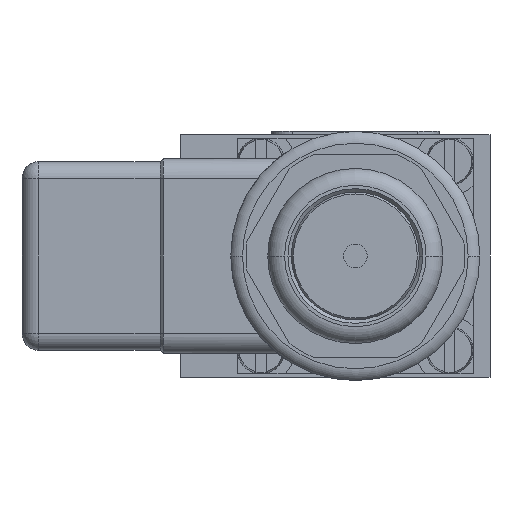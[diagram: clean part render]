
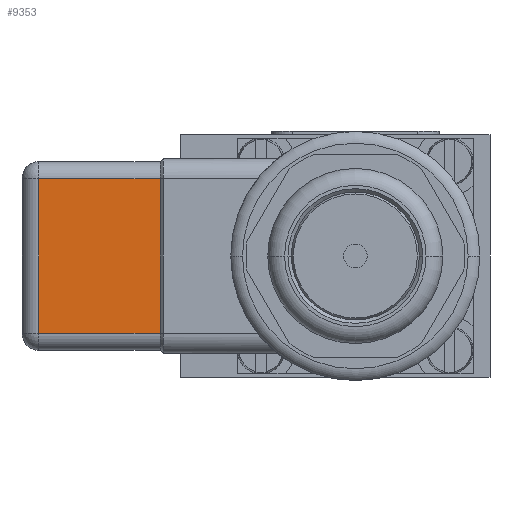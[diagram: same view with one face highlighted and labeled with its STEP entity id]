
A CAD part, left-side view. The second image highlights one B-rep face of the part: STEP entity #9353.
In plain terms, the highlighted planar face has unit normal (-1, 0, 0) as drawn and (1, 0, 0) by its records, which use the part's own axes.
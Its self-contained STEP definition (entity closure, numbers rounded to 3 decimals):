
#8206=DIRECTION('',(0.,0.,-1.));
#8207=VECTOR('',#8206,23.);
#8208=CARTESIAN_POINT('',(31.5,47.,11.5));
#8209=LINE('',#8208,#8207);
#8213=DIRECTION('',(0.,1.,0.));
#8214=VECTOR('',#8213,18.);
#8215=CARTESIAN_POINT('',(31.5,29.,11.5));
#8216=LINE('',#8215,#8214);
#8340=DIRECTION('',(0.,0.,-1.));
#8341=VECTOR('',#8340,23.);
#8342=CARTESIAN_POINT('',(31.5,29.,11.5));
#8343=LINE('',#8342,#8341);
#8413=DIRECTION('',(0.,1.,0.));
#8414=VECTOR('',#8413,18.);
#8415=CARTESIAN_POINT('',(31.5,29.,-11.5));
#8416=LINE('',#8415,#8414);
#9302=CARTESIAN_POINT('',(31.5,29.,11.5));
#9303=CARTESIAN_POINT('',(31.5,29.,-11.5));
#9304=VERTEX_POINT('',#9302);
#9305=VERTEX_POINT('',#9303);
#9334=CARTESIAN_POINT('',(31.5,47.,11.5));
#9335=CARTESIAN_POINT('',(31.5,47.,-11.5));
#9336=VERTEX_POINT('',#9334);
#9337=VERTEX_POINT('',#9335);
#9338=CARTESIAN_POINT('',(31.5,29.,11.5));
#9339=DIRECTION('',(1.,0.,0.));
#9340=DIRECTION('',(0.,0.,-1.));
#9341=AXIS2_PLACEMENT_3D('',#9338,#9339,#9340);
#9342=PLANE('',#9341);
#9344=ORIENTED_EDGE('',*,*,#9343,.T.);
#9346=ORIENTED_EDGE('',*,*,#9345,.F.);
#9348=ORIENTED_EDGE('',*,*,#9347,.F.);
#9350=ORIENTED_EDGE('',*,*,#9349,.T.);
#9351=EDGE_LOOP('',(#9344,#9346,#9348,#9350));
#9352=FACE_OUTER_BOUND('',#9351,.F.);
#9343=EDGE_CURVE('',#9336,#9337,#8209,.T.);
#9345=EDGE_CURVE('',#9305,#9337,#8416,.T.);
#9347=EDGE_CURVE('',#9304,#9305,#8343,.T.);
#9349=EDGE_CURVE('',#9304,#9336,#8216,.T.);
#9353=ADVANCED_FACE('',(#9352),#9342,.T.);
